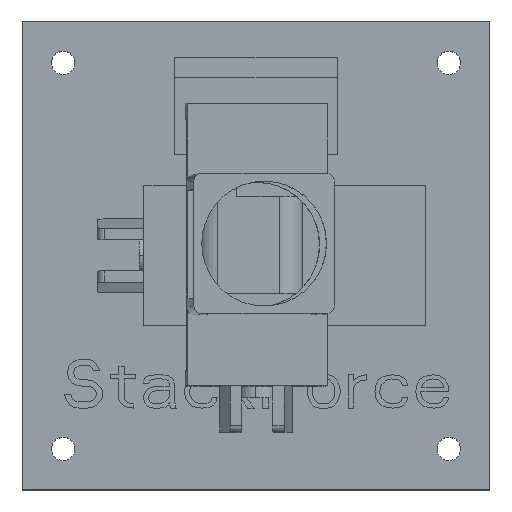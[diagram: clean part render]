
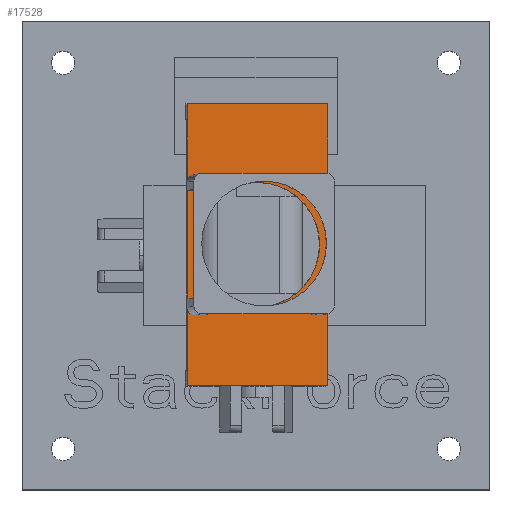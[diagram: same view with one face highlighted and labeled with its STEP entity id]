
A CAD part, top view. The second image highlights one B-rep face of the part: STEP entity #17528.
In plain terms, the highlighted planar face has unit normal (0.01, 0, 1) as drawn and (0, 0, 1) by its records, which use the part's own axes.
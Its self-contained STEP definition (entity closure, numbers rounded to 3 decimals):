
#16289=CARTESIAN_POINT('',(-4.29,-8.,44.));
#16290=DIRECTION('',(0.,0.,-1.));
#16291=DIRECTION('',(0.,-1.,0.));
#16292=AXIS2_PLACEMENT_3D('',#16289,#16290,#16291);
#16344=DIRECTION('',(0.,1.,0.));
#16345=VECTOR('',#16344,2.);
#16346=CARTESIAN_POINT('',(10.71,7.,44.));
#16347=LINE('',#16346,#16345);
#16352=DIRECTION('',(0.,1.,0.));
#16353=VECTOR('',#16352,2.);
#16354=CARTESIAN_POINT('',(10.71,-9.,44.));
#16355=LINE('',#16354,#16353);
#16404=DIRECTION('',(1.,0.,0.));
#16405=VECTOR('',#16404,14.);
#16406=CARTESIAN_POINT('',(-3.29,9.,44.));
#16407=LINE('',#16406,#16405);
#16412=CARTESIAN_POINT('',(-4.29,8.,44.));
#16413=DIRECTION('',(0.,0.,-1.));
#16414=DIRECTION('',(-1.,0.,0.));
#16415=AXIS2_PLACEMENT_3D('',#16412,#16413,#16414);
#16463=CARTESIAN_POINT('',(11.71,8.,44.));
#16464=DIRECTION('',(0.,0.,-1.));
#16465=DIRECTION('',(0.,1.,0.));
#16466=AXIS2_PLACEMENT_3D('',#16463,#16464,#16465);
#16488=DIRECTION('',(1.,0.,0.));
#16489=VECTOR('',#16488,2.);
#16490=CARTESIAN_POINT('',(-5.29,-7.,44.));
#16491=LINE('',#16490,#16489);
#16492=DIRECTION('',(1.,0.,0.));
#16493=VECTOR('',#16492,2.);
#16494=CARTESIAN_POINT('',(10.71,-7.,44.));
#16495=LINE('',#16494,#16493);
#16496=DIRECTION('',(0.,1.,0.));
#16497=VECTOR('',#16496,2.);
#16498=CARTESIAN_POINT('',(-3.29,-9.,44.));
#16499=LINE('',#16498,#16497);
#16500=DIRECTION('',(0.,1.,0.));
#16501=VECTOR('',#16500,1.);
#16502=CARTESIAN_POINT('',(-5.29,-8.,44.));
#16503=LINE('',#16502,#16501);
#16504=DIRECTION('',(-1.,0.,0.));
#16505=VECTOR('',#16504,10.09);
#16506=CARTESIAN_POINT('',(-4.29,-9.,44.));
#16507=LINE('',#16506,#16505);
#16508=DIRECTION('',(1.,0.,0.));
#16509=VECTOR('',#16508,10.09);
#16510=CARTESIAN_POINT('',(-14.38,9.,44.));
#16511=LINE('',#16510,#16509);
#16512=DIRECTION('',(0.,1.,0.));
#16513=VECTOR('',#16512,1.);
#16514=CARTESIAN_POINT('',(-5.29,7.,44.));
#16515=LINE('',#16514,#16513);
#16516=DIRECTION('',(1.,0.,0.));
#16517=VECTOR('',#16516,2.);
#16518=CARTESIAN_POINT('',(-5.29,7.,44.));
#16519=LINE('',#16518,#16517);
#16520=DIRECTION('',(0.,1.,0.));
#16521=VECTOR('',#16520,2.);
#16522=CARTESIAN_POINT('',(-3.29,7.,44.));
#16523=LINE('',#16522,#16521);
#16524=DIRECTION('',(1.,0.,0.));
#16525=VECTOR('',#16524,2.);
#16526=CARTESIAN_POINT('',(10.71,7.,44.));
#16527=LINE('',#16526,#16525);
#16528=DIRECTION('',(0.,1.,0.));
#16529=VECTOR('',#16528,1.);
#16530=CARTESIAN_POINT('',(12.71,7.,44.));
#16531=LINE('',#16530,#16529);
#16532=DIRECTION('',(1.,0.,0.));
#16533=VECTOR('',#16532,10.09);
#16534=CARTESIAN_POINT('',(11.71,9.,44.));
#16535=LINE('',#16534,#16533);
#16536=DIRECTION('',(-1.,0.,0.));
#16537=VECTOR('',#16536,10.09);
#16538=CARTESIAN_POINT('',(21.8,-9.,44.));
#16539=LINE('',#16538,#16537);
#16540=DIRECTION('',(0.,1.,0.));
#16541=VECTOR('',#16540,1.);
#16542=CARTESIAN_POINT('',(12.71,-8.,44.));
#16543=LINE('',#16542,#16541);
#16544=CARTESIAN_POINT('',(3.71,0.,44.));
#16545=DIRECTION('',(0.,0.,1.));
#16546=DIRECTION('',(-1.,0.,0.));
#16547=AXIS2_PLACEMENT_3D('',#16544,#16545,#16546);
#16549=CARTESIAN_POINT('',(3.71,0.,44.));
#16550=DIRECTION('',(0.,0.,1.));
#16551=DIRECTION('',(1.,0.,0.));
#16552=AXIS2_PLACEMENT_3D('',#16549,#16550,#16551);
#16574=DIRECTION('',(1.,0.,0.));
#16575=VECTOR('',#16574,14.);
#16576=CARTESIAN_POINT('',(-3.29,-9.,44.));
#16577=LINE('',#16576,#16575);
#16582=CARTESIAN_POINT('',(11.71,-8.,44.));
#16583=DIRECTION('',(0.,0.,-1.));
#16584=DIRECTION('',(1.,0.,0.));
#16585=AXIS2_PLACEMENT_3D('',#16582,#16583,#16584);
#16597=DIRECTION('',(0.,-1.,0.));
#16598=VECTOR('',#16597,18.);
#16599=CARTESIAN_POINT('',(21.8,9.,44.));
#16600=LINE('',#16599,#16598);
#16725=DIRECTION('',(0.,1.,0.));
#16726=VECTOR('',#16725,18.);
#16727=CARTESIAN_POINT('',(-14.38,-9.,44.));
#16728=LINE('',#16727,#16726);
#17003=CARTESIAN_POINT('',(-14.38,-9.,44.));
#17004=CARTESIAN_POINT('',(-14.38,9.,44.));
#17005=VERTEX_POINT('',#17003);
#17006=VERTEX_POINT('',#17004);
#17071=CARTESIAN_POINT('',(21.8,9.,44.));
#17072=CARTESIAN_POINT('',(21.8,-9.,44.));
#17073=VERTEX_POINT('',#17071);
#17074=VERTEX_POINT('',#17072);
#17088=CARTESIAN_POINT('',(-5.29,-8.,44.));
#17090=VERTEX_POINT('',#17088);
#17093=CARTESIAN_POINT('',(-4.29,-9.,44.));
#17094=VERTEX_POINT('',#17093);
#17096=CARTESIAN_POINT('',(11.71,-9.,44.));
#17098=VERTEX_POINT('',#17096);
#17101=CARTESIAN_POINT('',(12.71,-8.,44.));
#17102=VERTEX_POINT('',#17101);
#17104=CARTESIAN_POINT('',(-4.29,9.,44.));
#17106=VERTEX_POINT('',#17104);
#17109=CARTESIAN_POINT('',(-5.29,8.,44.));
#17110=VERTEX_POINT('',#17109);
#17112=CARTESIAN_POINT('',(12.71,8.,44.));
#17114=VERTEX_POINT('',#17112);
#17117=CARTESIAN_POINT('',(11.71,9.,44.));
#17118=VERTEX_POINT('',#17117);
#17131=CARTESIAN_POINT('',(-3.29,-9.,44.));
#17132=VERTEX_POINT('',#17131);
#17133=CARTESIAN_POINT('',(10.71,-9.,44.));
#17134=VERTEX_POINT('',#17133);
#17139=CARTESIAN_POINT('',(-3.29,9.,44.));
#17140=VERTEX_POINT('',#17139);
#17141=CARTESIAN_POINT('',(10.71,9.,44.));
#17142=VERTEX_POINT('',#17141);
#17147=CARTESIAN_POINT('',(-5.29,7.,44.));
#17148=VERTEX_POINT('',#17147);
#17149=CARTESIAN_POINT('',(-5.29,-7.,44.));
#17150=VERTEX_POINT('',#17149);
#17155=CARTESIAN_POINT('',(12.71,7.,44.));
#17156=VERTEX_POINT('',#17155);
#17157=CARTESIAN_POINT('',(12.71,-7.,44.));
#17158=VERTEX_POINT('',#17157);
#17160=CARTESIAN_POINT('',(-3.29,7.,44.));
#17162=VERTEX_POINT('',#17160);
#17164=CARTESIAN_POINT('',(-3.29,-7.,44.));
#17166=VERTEX_POINT('',#17164);
#17167=CARTESIAN_POINT('',(10.71,7.,44.));
#17169=VERTEX_POINT('',#17167);
#17171=CARTESIAN_POINT('',(10.71,-7.,44.));
#17173=VERTEX_POINT('',#17171);
#17177=CARTESIAN_POINT('',(11.71,0.,44.));
#17178=VERTEX_POINT('',#17177);
#17181=CARTESIAN_POINT('',(-4.29,0.,44.));
#17182=VERTEX_POINT('',#17181);
#17485=CARTESIAN_POINT('',(1.25,4.,44.));
#17486=DIRECTION('',(0.,0.,1.));
#17487=DIRECTION('',(1.,0.,0.));
#17488=AXIS2_PLACEMENT_3D('',#17485,#17486,#17487);
#17489=PLANE('',#17488);
#17490=ORIENTED_EDGE('',*,*,#17480,.F.);
#17491=ORIENTED_EDGE('',*,*,#17284,.F.);
#17493=ORIENTED_EDGE('',*,*,#17492,.F.);
#17494=ORIENTED_EDGE('',*,*,#17338,.T.);
#17495=ORIENTED_EDGE('',*,*,#17465,.F.);
#17496=ORIENTED_EDGE('',*,*,#17215,.F.);
#17497=ORIENTED_EDGE('',*,*,#17194,.F.);
#17499=ORIENTED_EDGE('',*,*,#17498,.T.);
#17501=ORIENTED_EDGE('',*,*,#17500,.T.);
#17502=ORIENTED_EDGE('',*,*,#17353,.T.);
#17503=ORIENTED_EDGE('',*,*,#17394,.F.);
#17504=ORIENTED_EDGE('',*,*,#17208,.F.);
#17505=ORIENTED_EDGE('',*,*,#17298,.T.);
#17506=ORIENTED_EDGE('',*,*,#17326,.T.);
#17507=ORIENTED_EDGE('',*,*,#17379,.T.);
#17508=ORIENTED_EDGE('',*,*,#17266,.F.);
#17509=ORIENTED_EDGE('',*,*,#17310,.T.);
#17510=ORIENTED_EDGE('',*,*,#17453,.T.);
#17511=ORIENTED_EDGE('',*,*,#17434,.F.);
#17512=ORIENTED_EDGE('',*,*,#17369,.T.);
#17514=ORIENTED_EDGE('',*,*,#17513,.T.);
#17516=ORIENTED_EDGE('',*,*,#17515,.T.);
#17518=ORIENTED_EDGE('',*,*,#17517,.F.);
#17519=ORIENTED_EDGE('',*,*,#17447,.T.);
#17520=EDGE_LOOP('',(#17490,#17491,#17493,#17494,#17495,#17496,#17497,#17499,
#17501,#17502,#17503,#17504,#17505,#17506,#17507,#17508,#17509,#17510,#17511,
#17512,#17514,#17516,#17518,#17519));
#17521=FACE_OUTER_BOUND('',#17520,.F.);
#17523=ORIENTED_EDGE('',*,*,#17522,.T.);
#17525=ORIENTED_EDGE('',*,*,#17524,.T.);
#17526=EDGE_LOOP('',(#17523,#17525));
#17527=FACE_BOUND('',#17526,.F.);
#17528=ADVANCED_FACE('',(#17521,#17527),#17489,.T.);
#16293=CIRCLE('',#16292,1.);
#16416=CIRCLE('',#16415,1.);
#16467=CIRCLE('',#16466,1.);
#16548=CIRCLE('',#16547,8.);
#16553=CIRCLE('',#16552,8.);
#16586=CIRCLE('',#16585,1.);
#17194=EDGE_CURVE('',#17094,#17090,#16293,.T.);
#17208=EDGE_CURVE('',#17148,#17110,#16515,.T.);
#17215=EDGE_CURVE('',#17090,#17150,#16503,.T.);
#17266=EDGE_CURVE('',#17169,#17142,#16347,.T.);
#17284=EDGE_CURVE('',#17134,#17173,#16355,.T.);
#17298=EDGE_CURVE('',#17148,#17162,#16519,.T.);
#17310=EDGE_CURVE('',#17169,#17156,#16527,.T.);
#17326=EDGE_CURVE('',#17162,#17140,#16523,.T.);
#17338=EDGE_CURVE('',#17132,#17166,#16499,.T.);
#17353=EDGE_CURVE('',#17006,#17106,#16511,.T.);
#17369=EDGE_CURVE('',#17118,#17073,#16535,.T.);
#17379=EDGE_CURVE('',#17140,#17142,#16407,.T.);
#17394=EDGE_CURVE('',#17110,#17106,#16416,.T.);
#17434=EDGE_CURVE('',#17118,#17114,#16467,.T.);
#17447=EDGE_CURVE('',#17102,#17158,#16543,.T.);
#17453=EDGE_CURVE('',#17156,#17114,#16531,.T.);
#17465=EDGE_CURVE('',#17150,#17166,#16491,.T.);
#17480=EDGE_CURVE('',#17173,#17158,#16495,.T.);
#17492=EDGE_CURVE('',#17132,#17134,#16577,.T.);
#17498=EDGE_CURVE('',#17094,#17005,#16507,.T.);
#17500=EDGE_CURVE('',#17005,#17006,#16728,.T.);
#17513=EDGE_CURVE('',#17073,#17074,#16600,.T.);
#17515=EDGE_CURVE('',#17074,#17098,#16539,.T.);
#17517=EDGE_CURVE('',#17102,#17098,#16586,.T.);
#17522=EDGE_CURVE('',#17182,#17178,#16548,.T.);
#17524=EDGE_CURVE('',#17178,#17182,#16553,.T.);
